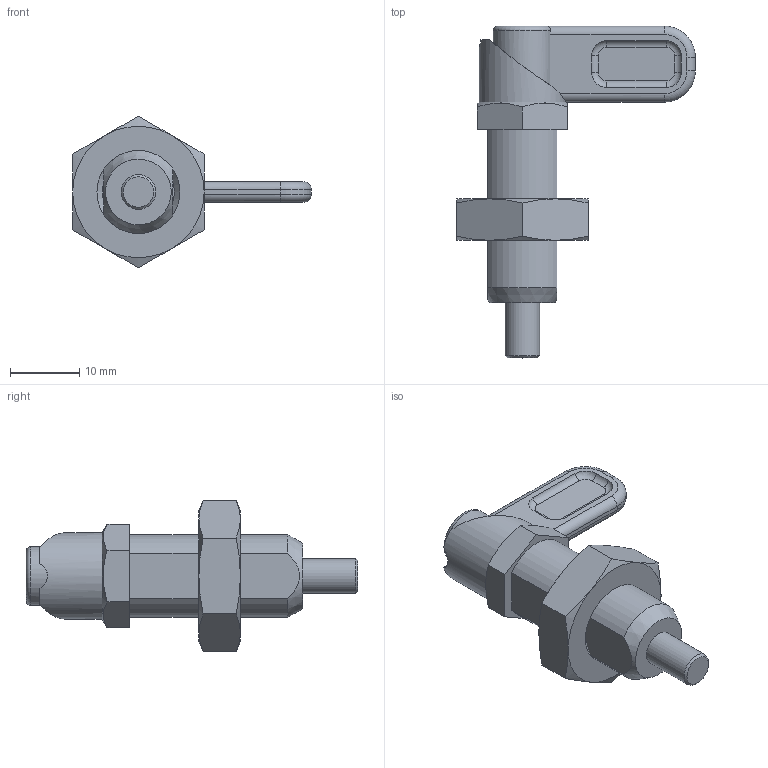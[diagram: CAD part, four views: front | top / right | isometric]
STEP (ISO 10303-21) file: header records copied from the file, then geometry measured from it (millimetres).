
FILE_DESCRIPTION( ( 'STEP AP203' ), '1' );
FILE_NAME( 'C:/Temp/Ganter_Step_05_03_2020/data/3_1/gn_612.8/gn612_8_ak/Indexing plunger GN 612.8-5-M12x1,5-AK (deactivated).stp', '2020-03-12T09:12:31', ( 'License CC BY-ND 4.0' ), ( 'CADENAS' ), ' ', 'PARTsolutions', ' ' );
FILE_SCHEMA( ( 'CONFIG_CONTROL_DESIGN' ) );
Length unit declared in the file: millimetre
Products named in the file (4): Indexing plunger GN 612.8-5-M12x1,5-AK (deactivated); _Indexing plunger GN 612.8-5-M12x1,5-AK (1)_2; _Indexing plunger GN 612.8-5-M12x1,5-AK (1)_1; _Indexing plunger GN 612.8-5-M12x1,5-AK (1)_3
Assembly tree (3 placements, depth 2):
  Indexing plunger GN 612.8-5-M12x1,5-AK (deactivated)
    _Indexing plunger GN 612.8-5-M12x1,5-AK (1)_2
    _Indexing plunger GN 612.8-5-M12x1,5-AK (1)_1
    _Indexing plunger GN 612.8-5-M12x1,5-AK (1)_3
Bounding box: 34.5 x 48 x 21.94 mm (x, y, z)
Volume: 5989.3 mm3; surface area: 4701.6 mm2
Topology: 3 solids, 3 shells, 97 faces, 222 edges, 139 vertices
Faces by surface type: cylinder 34, plane 33, cone 17, torus 13
Full cylindrical faces by diameter (mm): 5 x4, 6 x2, 9 x1, 10.376 x1, 12.5 x1
Entity records: 3159 total; most frequent: CARTESIAN_POINT 926, DIRECTION 444, ORIENTED_EDGE 412, EDGE_CURVE 206, AXIS2_PLACEMENT_3D 190, VERTEX_POINT 136, EDGE_LOOP 122, FACE_OUTER_BOUND 105
